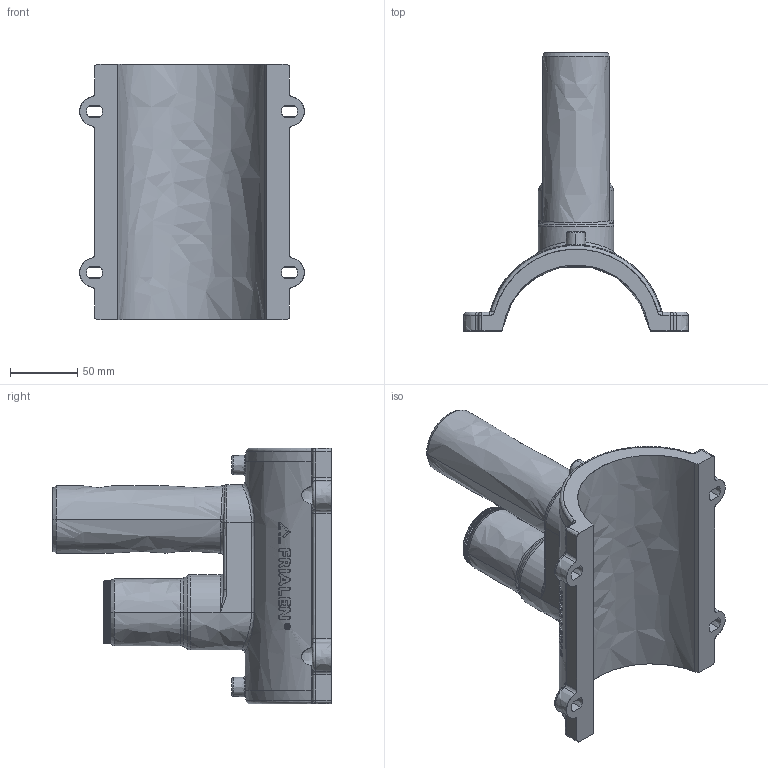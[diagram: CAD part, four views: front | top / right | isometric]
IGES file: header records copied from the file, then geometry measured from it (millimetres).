
Start section:  PTC IGES file: dap_d110_50_01.igs
Global section: file name: dap_d110_50_01.igs; native system: Pro/ENGINEER by Parametric Technology Corporation; preprocessor: 2011490; author: mtunjic; organization: Unknown; date: 20130909.083126; units: millimetre
Bounding box: 167 x 207 x 190 mm (x, y, z)
Surface area: 142512.4 mm2 (no closed solid volume)
Topology: 0 solids, 0 shells, 808 faces, 4558 edges, 4558 vertices
Faces by surface type: bspline 808
